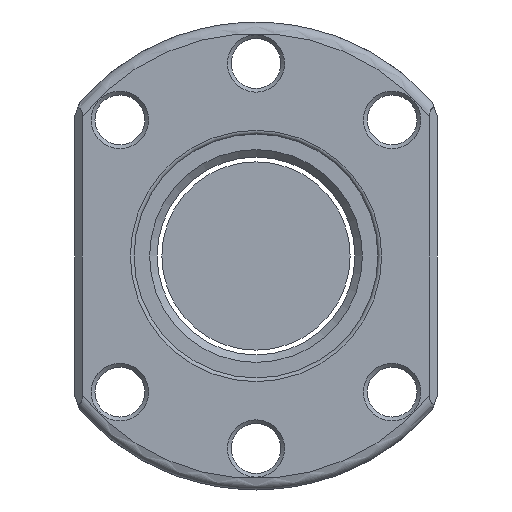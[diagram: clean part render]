
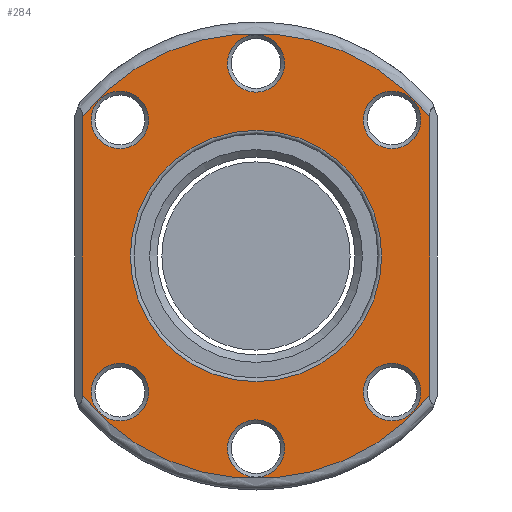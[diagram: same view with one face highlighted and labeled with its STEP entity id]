
A CAD part, front view. The second image highlights one B-rep face of the part: STEP entity #284.
In plain terms, the highlighted planar face has unit normal (0, -1, 0).
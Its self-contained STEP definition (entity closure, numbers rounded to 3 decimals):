
#55=LINE('',#1732,#95);
#56=LINE('',#1736,#96);
#95=VECTOR('',#1425,1.);
#96=VECTOR('',#1428,1.);
#209=PLANE('',#1197);
#284=ADVANCED_FACE('',(#384,#385,#386,#387,#388,#389,#390,#391),#209,.F.);
#384=FACE_BOUND('',#502,.T.);
#385=FACE_BOUND('',#503,.T.);
#386=FACE_BOUND('',#504,.T.);
#387=FACE_BOUND('',#505,.T.);
#388=FACE_BOUND('',#506,.T.);
#389=FACE_BOUND('',#507,.T.);
#390=FACE_BOUND('',#508,.T.);
#391=FACE_BOUND('',#509,.T.);
#502=EDGE_LOOP('',(#672));
#503=EDGE_LOOP('',(#673));
#504=EDGE_LOOP('',(#674));
#505=EDGE_LOOP('',(#675));
#506=EDGE_LOOP('',(#676));
#507=EDGE_LOOP('',(#677));
#508=EDGE_LOOP('',(#678));
#509=EDGE_LOOP('',(#679,#680,#681,#682));
#672=ORIENTED_EDGE('',*,*,#980,.T.);
#673=ORIENTED_EDGE('',*,*,#981,.T.);
#674=ORIENTED_EDGE('',*,*,#982,.T.);
#675=ORIENTED_EDGE('',*,*,#983,.T.);
#676=ORIENTED_EDGE('',*,*,#984,.T.);
#677=ORIENTED_EDGE('',*,*,#985,.T.);
#678=ORIENTED_EDGE('',*,*,#986,.T.);
#679=ORIENTED_EDGE('',*,*,#987,.T.);
#680=ORIENTED_EDGE('',*,*,#988,.T.);
#681=ORIENTED_EDGE('',*,*,#989,.T.);
#682=ORIENTED_EDGE('',*,*,#990,.T.);
#872=VERTEX_POINT('',#1716);
#873=VERTEX_POINT('',#1718);
#874=VERTEX_POINT('',#1720);
#875=VERTEX_POINT('',#1722);
#876=VERTEX_POINT('',#1724);
#877=VERTEX_POINT('',#1726);
#878=VERTEX_POINT('',#1728);
#879=VERTEX_POINT('',#1730);
#880=VERTEX_POINT('',#1731);
#881=VERTEX_POINT('',#1733);
#882=VERTEX_POINT('',#1735);
#980=EDGE_CURVE('',#872,#872,#1088,.T.);
#981=EDGE_CURVE('',#873,#873,#1089,.T.);
#982=EDGE_CURVE('',#874,#874,#1090,.T.);
#983=EDGE_CURVE('',#875,#875,#1091,.T.);
#984=EDGE_CURVE('',#876,#876,#1092,.T.);
#985=EDGE_CURVE('',#877,#877,#1093,.T.);
#986=EDGE_CURVE('',#878,#878,#1094,.T.);
#987=EDGE_CURVE('',#879,#880,#1095,.T.);
#988=EDGE_CURVE('',#880,#881,#55,.T.);
#989=EDGE_CURVE('',#881,#882,#1096,.T.);
#990=EDGE_CURVE('',#882,#879,#56,.T.);
#1088=CIRCLE('',#1188,16.65);
#1089=CIRCLE('',#1189,3.8);
#1090=CIRCLE('',#1190,3.8);
#1091=CIRCLE('',#1191,3.8);
#1092=CIRCLE('',#1192,3.8);
#1093=CIRCLE('',#1193,3.8);
#1094=CIRCLE('',#1194,3.8);
#1095=CIRCLE('',#1195,29.5);
#1096=CIRCLE('',#1196,29.5);
#1188=AXIS2_PLACEMENT_3D('',#1715,#1409,#1410);
#1189=AXIS2_PLACEMENT_3D('',#1717,#1411,#1412);
#1190=AXIS2_PLACEMENT_3D('',#1719,#1413,#1414);
#1191=AXIS2_PLACEMENT_3D('',#1721,#1415,#1416);
#1192=AXIS2_PLACEMENT_3D('',#1723,#1417,#1418);
#1193=AXIS2_PLACEMENT_3D('',#1725,#1419,#1420);
#1194=AXIS2_PLACEMENT_3D('',#1727,#1421,#1422);
#1195=AXIS2_PLACEMENT_3D('',#1729,#1423,#1424);
#1196=AXIS2_PLACEMENT_3D('',#1734,#1426,#1427);
#1197=AXIS2_PLACEMENT_3D('',#1737,#1429,#1430);
#1409=DIRECTION('',(0.,1.,0.));
#1410=DIRECTION('',(0.,0.,1.));
#1411=DIRECTION('',(0.,1.,0.));
#1412=DIRECTION('',(0.,0.,1.));
#1413=DIRECTION('',(0.,1.,0.));
#1414=DIRECTION('',(0.,0.,1.));
#1415=DIRECTION('',(0.,1.,0.));
#1416=DIRECTION('',(0.,0.,1.));
#1417=DIRECTION('',(0.,1.,0.));
#1418=DIRECTION('',(0.,0.,1.));
#1419=DIRECTION('',(0.,1.,0.));
#1420=DIRECTION('',(0.,0.,1.));
#1421=DIRECTION('',(0.,1.,0.));
#1422=DIRECTION('',(0.,0.,1.));
#1423=DIRECTION('',(0.,-1.,0.));
#1424=DIRECTION('',(0.,0.,1.));
#1425=DIRECTION('',(0.,0.,-1.));
#1426=DIRECTION('',(0.,-1.,0.));
#1427=DIRECTION('',(0.,0.,1.));
#1428=DIRECTION('',(0.,0.,1.));
#1429=DIRECTION('',(0.,1.,0.));
#1430=DIRECTION('',(0.,0.,1.));
#1715=CARTESIAN_POINT('',(0.,0.,0.));
#1716=CARTESIAN_POINT('',(0.,0.,16.65));
#1717=CARTESIAN_POINT('',(18.031,0.,-18.031));
#1718=CARTESIAN_POINT('',(18.031,0.,-14.231));
#1719=CARTESIAN_POINT('',(-18.031,0.,18.031));
#1720=CARTESIAN_POINT('',(-18.031,0.,21.831));
#1721=CARTESIAN_POINT('',(0.,0.,-25.5));
#1722=CARTESIAN_POINT('',(0.,0.,-21.7));
#1723=CARTESIAN_POINT('',(18.031,0.,18.031));
#1724=CARTESIAN_POINT('',(18.031,0.,21.831));
#1725=CARTESIAN_POINT('',(0.,0.,25.5));
#1726=CARTESIAN_POINT('',(0.,0.,29.3));
#1727=CARTESIAN_POINT('',(-18.031,0.,-18.031));
#1728=CARTESIAN_POINT('',(-18.031,0.,-14.231));
#1729=CARTESIAN_POINT('',(0.,0.,0.));
#1730=CARTESIAN_POINT('',(23.,0.,18.473));
#1731=CARTESIAN_POINT('',(-23.,0.,18.473));
#1732=CARTESIAN_POINT('',(-23.,0.,-17.154));
#1733=CARTESIAN_POINT('',(-23.,0.,-18.473));
#1734=CARTESIAN_POINT('',(0.,0.,0.));
#1735=CARTESIAN_POINT('',(23.,0.,-18.473));
#1736=CARTESIAN_POINT('',(23.,0.,17.154));
#1737=CARTESIAN_POINT('',(0.,0.,0.));
